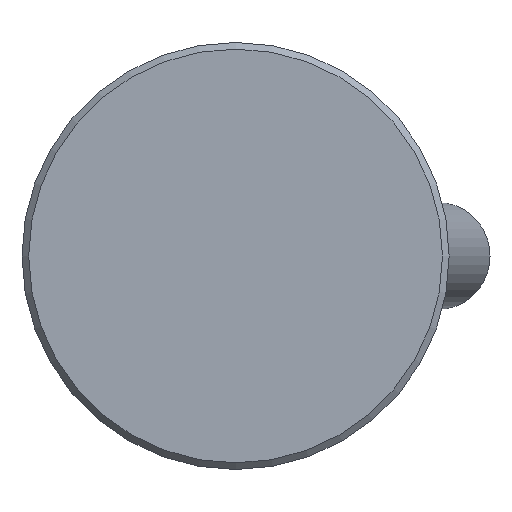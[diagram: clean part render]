
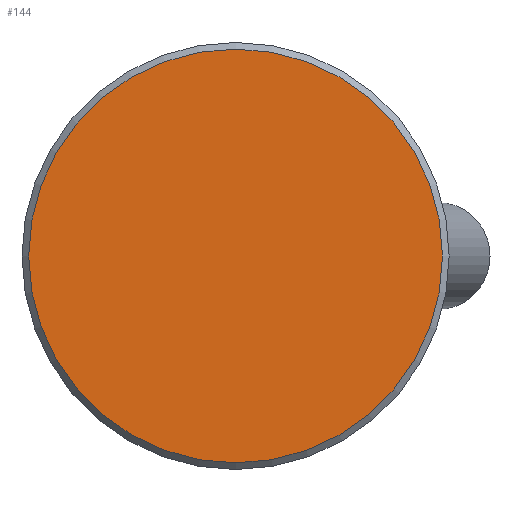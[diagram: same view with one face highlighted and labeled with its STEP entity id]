
A CAD part, front view. The second image highlights one B-rep face of the part: STEP entity #144.
In plain terms, the highlighted planar face has unit normal (0, -1, 0).
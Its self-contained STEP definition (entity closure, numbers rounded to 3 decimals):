
#144 = ADVANCED_FACE( '', ( #297 ), #298, .F. );
#297 = FACE_OUTER_BOUND( '', #493, .T. );
#298 = PLANE( '', #494 );
#493 = EDGE_LOOP( '', ( #688 ) );
#494 = AXIS2_PLACEMENT_3D( '', #689, #690, #691 );
#688 = ORIENTED_EDGE( '', *, *, #1103, .T. );
#689 = CARTESIAN_POINT( '', ( 15.5, 0., 0. ) );
#690 = DIRECTION( '', ( 0., 1., 0. ) );
#691 = DIRECTION( '', ( 0., 0., 1. ) );
#1103 = EDGE_CURVE( '', #1268, #1268, #1269, .T. );
#1268 = VERTEX_POINT( '', #1523 );
#1269 = CIRCLE( '', #1524, 15.5 );
#1523 = CARTESIAN_POINT( '', ( 0., 0., -15.5 ) );
#1524 = AXIS2_PLACEMENT_3D( '', #1954, #1955, #1956 );
#1954 = CARTESIAN_POINT( '', ( 0., 0., 0. ) );
#1955 = DIRECTION( '', ( 0., -1., 0. ) );
#1956 = DIRECTION( '', ( 0., 0., -1. ) );
